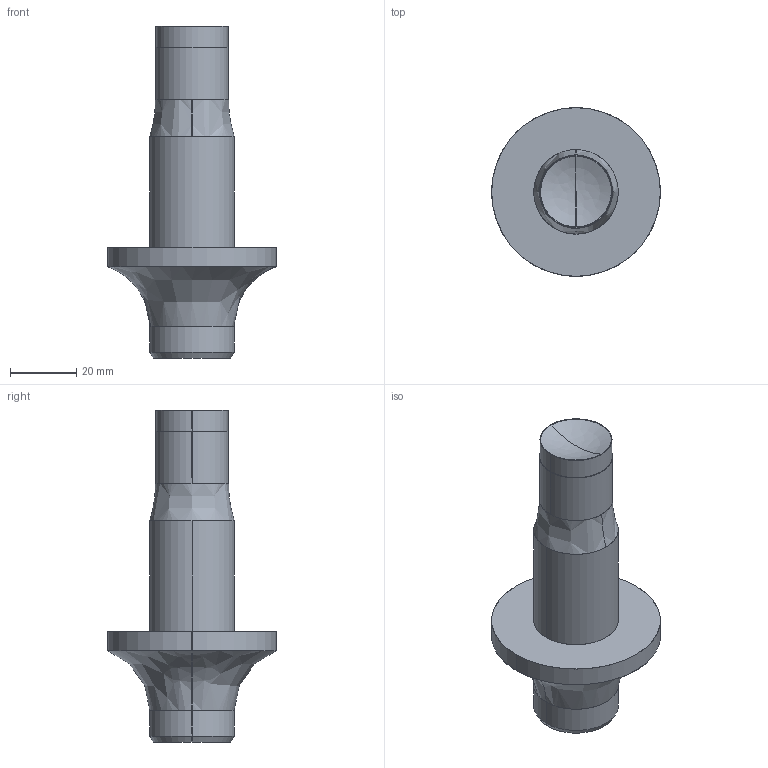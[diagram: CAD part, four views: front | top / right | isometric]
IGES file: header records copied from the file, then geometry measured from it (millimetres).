
Start section: SolidWorks IGES file using analytic representation for surfaces
Global section: file name: C:\Users\IanO\Desktop\SE0508_v2\SE0508_v2_20231218_IGES\SE0509.220-C.igs; native system: SolidWorks 2019; preprocessor: SolidWorks 2019; author: IanO; date: 231218.131617; units: millimetre
Bounding box: 50.8 x 50.8 x 100 mm (x, y, z)
Surface area: 11594 mm2 (no closed solid volume)
Topology: 0 solids, 0 shells, 22 faces, 336 edges, 336 vertices
Faces by surface type: revolution 14, bspline 8
